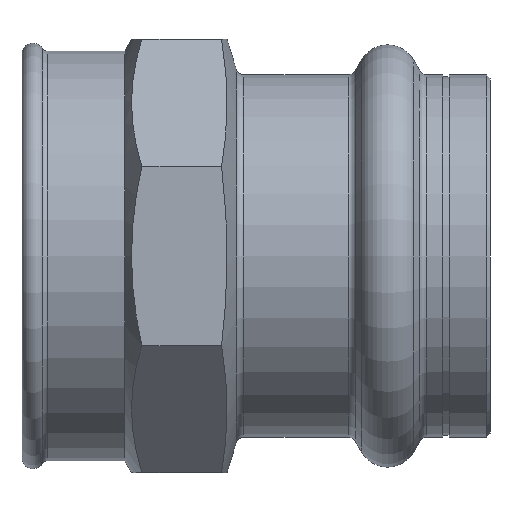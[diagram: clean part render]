
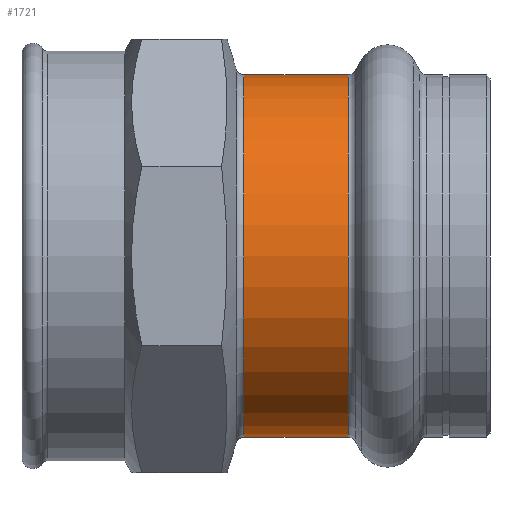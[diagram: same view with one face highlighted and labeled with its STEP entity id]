
A CAD part, left-side view. The second image highlights one B-rep face of the part: STEP entity #1721.
In plain terms, the highlighted cylindrical face has radius 23 mm (diameter 46 mm), a partial arc.
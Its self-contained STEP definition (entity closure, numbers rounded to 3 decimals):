
#77 = LINE ( 'NONE', #484, #1613 ) ;
#133 = ORIENTED_EDGE ( 'NONE', *, *, #1272, .T. ) ;
#196 = ORIENTED_EDGE ( 'NONE', *, *, #416, .F. ) ;
#249 = LINE ( 'NONE', #1002, #701 ) ;
#416 = EDGE_CURVE ( 'NONE', #1705, #1133, #1555, .T. ) ;
#454 = EDGE_CURVE ( 'NONE', #1939, #1133, #249, .T. ) ;
#484 = CARTESIAN_POINT ( 'NONE',  ( 0., -17.811, 23. ) ) ;
#516 = DIRECTION ( 'NONE',  ( 0., -1., 0. ) ) ;
#539 = ORIENTED_EDGE ( 'NONE', *, *, #1149, .F. ) ;
#548 = CARTESIAN_POINT ( 'NONE',  ( 0., 17.965, -23. ) ) ;
#674 = AXIS2_PLACEMENT_3D ( 'NONE', #902, #988, #950 ) ;
#701 = VECTOR ( 'NONE', #998, 1000. ) ;
#723 = CYLINDRICAL_SURFACE ( 'NONE', #961, 23. ) ;
#893 = ORIENTED_EDGE ( 'NONE', *, *, #454, .T. ) ;
#902 = CARTESIAN_POINT ( 'NONE',  ( 0., 17.965, 0. ) ) ;
#950 = DIRECTION ( 'NONE',  ( 0., 0., -1. ) ) ;
#961 = AXIS2_PLACEMENT_3D ( 'NONE', #1756, #1370, #1761 ) ;
#988 = DIRECTION ( 'NONE',  ( 0., -1., 0. ) ) ;
#998 = DIRECTION ( 'NONE',  ( 0., -1., 0. ) ) ;
#1002 = CARTESIAN_POINT ( 'NONE',  ( 0., -17.811, -23. ) ) ;
#1133 = VERTEX_POINT ( 'NONE', #548 ) ;
#1146 = CIRCLE ( 'NONE', #1851, 23. ) ;
#1149 = EDGE_CURVE ( 'NONE', #1774, #1705, #77, .T. ) ;
#1240 = CARTESIAN_POINT ( 'NONE',  ( 0., 31.26, 23. ) ) ;
#1272 = EDGE_CURVE ( 'NONE', #1774, #1939, #1146, .T. ) ;
#1370 = DIRECTION ( 'NONE',  ( 0., -1., 0. ) ) ;
#1485 = EDGE_LOOP ( 'NONE', ( #539, #133, #893, #196 ) ) ;
#1543 = CARTESIAN_POINT ( 'NONE',  ( 0., 31.26, -23. ) ) ;
#1555 = CIRCLE ( 'NONE', #674, 23. ) ;
#1590 = CARTESIAN_POINT ( 'NONE',  ( 0., 31.26, 0. ) ) ;
#1613 = VECTOR ( 'NONE', #516, 1000. ) ;
#1615 = CARTESIAN_POINT ( 'NONE',  ( 0., 17.965, 23. ) ) ;
#1705 = VERTEX_POINT ( 'NONE', #1615 ) ;
#1721 = ADVANCED_FACE ( 'NONE', ( #1861 ), #723, .T. ) ;
#1756 = CARTESIAN_POINT ( 'NONE',  ( 0., -17.811, 0. ) ) ;
#1761 = DIRECTION ( 'NONE',  ( 0., 0., -1. ) ) ;
#1774 = VERTEX_POINT ( 'NONE', #1240 ) ;
#1851 = AXIS2_PLACEMENT_3D ( 'NONE', #1590, #1956, #1869 ) ;
#1861 = FACE_OUTER_BOUND ( 'NONE', #1485, .T. ) ;
#1869 = DIRECTION ( 'NONE',  ( 0., 0., -1. ) ) ;
#1939 = VERTEX_POINT ( 'NONE', #1543 ) ;
#1956 = DIRECTION ( 'NONE',  ( 0., -1., 0. ) ) ;
